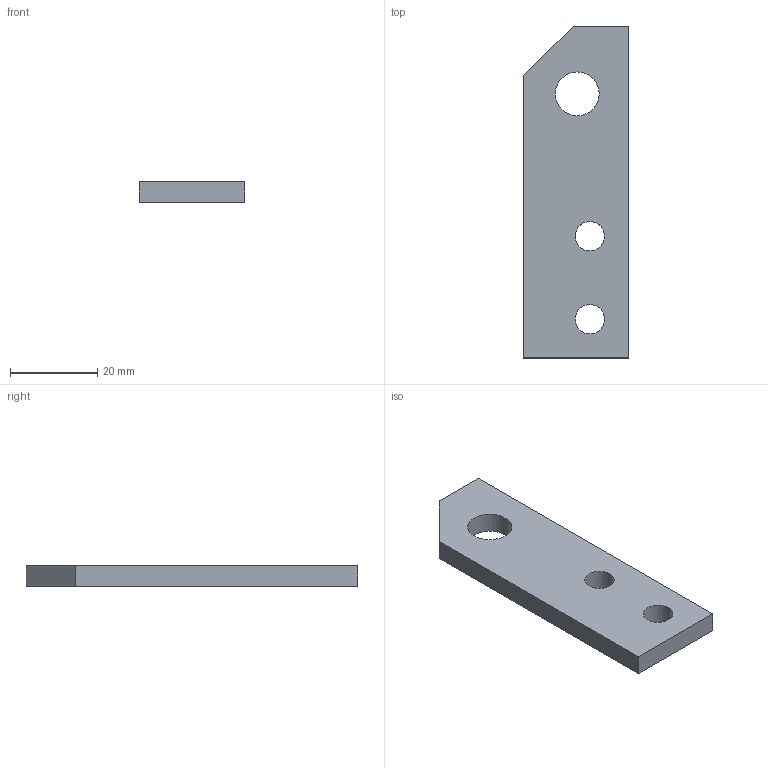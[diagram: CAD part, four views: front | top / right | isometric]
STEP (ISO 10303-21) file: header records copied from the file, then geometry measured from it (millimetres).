
FILE_DESCRIPTION(/* description */ (''),/* implementation_level */ '2;1');
FILE_NAME(/* name */ 'F:\Google Drive\Research\3d Printer Research\Feedstock Grinder\Ginder Parts\Negative Blade Spacer 1.step',/* time_stamp */ '2016-08-18T22:20:58-07:00',/* author */ ('Brenton'),/* organization */ (''),/* preprocessor_version */ 'ST-DEVELOPER v15.6',/* originating_system */ 'Autodesk Inventor 2015',/* authorisation */ '');
FILE_SCHEMA (('AUTOMOTIVE_DESIGN { 1 0 10303 214 3 1 1 }'));
Length unit declared in the file: inch
Products named in the file (1): neg blade spacer
Bounding box: 24.13 x 76.2 x 4.76 mm (x, y, z)
Volume: 7723.9 mm3; surface area: 4520.4 mm2
Topology: 1 solids, 1 shells, 10 faces, 24 edges, 16 vertices
Faces by surface type: plane 7, cylinder 3
Full cylindrical faces by diameter (mm): 6.756 x2, 10.084 x1
Entity records: 317 total; most frequent: DIRECTION 49, CARTESIAN_POINT 48, ORIENTED_EDGE 42, EDGE_CURVE 21, EDGE_LOOP 19, AXIS2_PLACEMENT_3D 17, VERTEX_POINT 16, LINE 15
